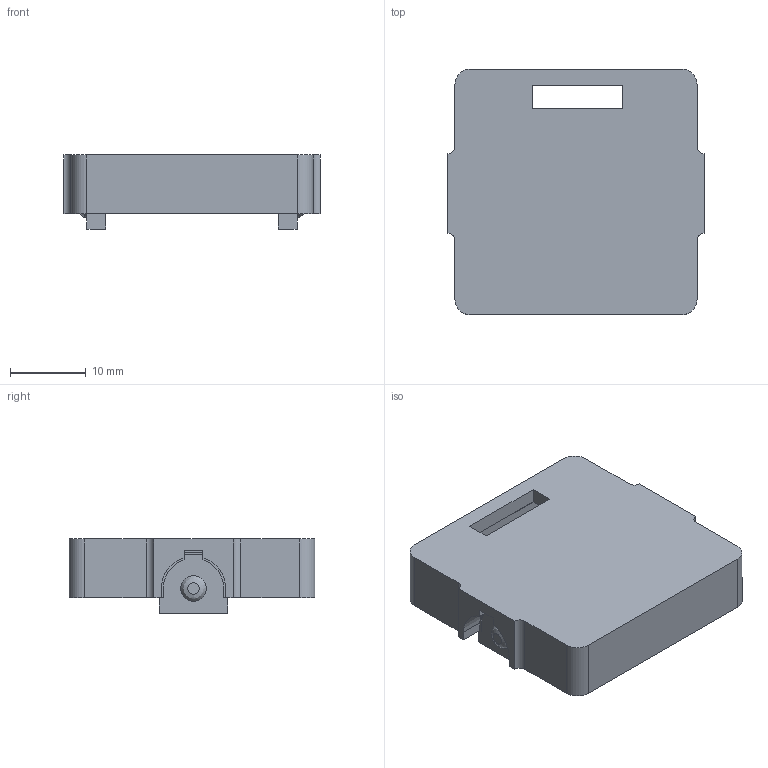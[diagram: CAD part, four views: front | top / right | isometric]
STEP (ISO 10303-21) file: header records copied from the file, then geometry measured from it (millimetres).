
FILE_DESCRIPTION(/* description */ (''),/* implementation_level */ '2;1');
FILE_NAME(/* name */ 'C:\Users\Dayton\Box Sync\BRICOLAGE\IMPRIMANTE 3D\PIECES\PIECE DISCOVERY\CUSTOM\BOITE AFFICHEUR OLED\V2\STP\arrièreV2.stp',/* time_stamp */ '2016-04-07T19:26:12+02:00',/* author */ ('Dayton'),/* organization */ (''),/* preprocessor_version */ 'ST-DEVELOPER v15.6',/* originating_system */ 'Autodesk Inventor 2015',/* authorisation */ '');
FILE_SCHEMA (('AUTOMOTIVE_DESIGN { 1 0 10303 214 3 1 1 }'));
Length unit declared in the file: millimetre
Products named in the file (1): arrièreV2
Bounding box: 33.9 x 32.5 x 9.8 mm (x, y, z)
Volume: 3689.8 mm3; surface area: 4022.6 mm2
Topology: 1 solids, 1 shells, 83 faces, 232 edges, 150 vertices
Faces by surface type: plane 51, cylinder 24, bspline 4, torus 4
Full cylindrical faces by diameter (mm): 3.4 x2
Entity records: 2798 total; most frequent: CARTESIAN_POINT 616, ORIENTED_EDGE 464, DIRECTION 442, EDGE_CURVE 228, LINE 162, VECTOR 162, VERTEX_POINT 150, AXIS2_PLACEMENT_3D 140
